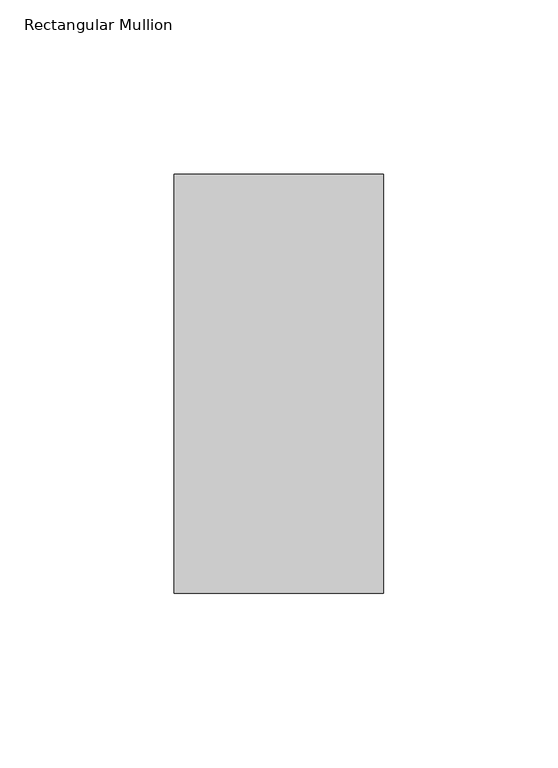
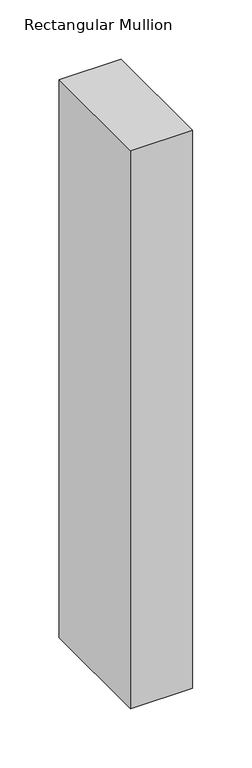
"""IFC4 building model written with IfcOpenShell, lengths in millimetres: member geometry, Rectangular Mullion : Terça."""

from ifc_helpers import new_model, si_unit, frame, origin, place, context, project, spatial, polyline, outline, extrude, source, transform, mapped, element, save


def rectangular_mullion_70739a68(model_context):
    return source(origin(), model_context, "Body", "SweptSolid", [
        extrude(outline(polyline([(0.0, -120.0), (-60.0, -120.0), (-60.0, 0.0), (0.0, 0.0), (0.0, -120.0)])), frame((0.0, 0.0, -572.0547567), z_axis=(0.0, 0.0, 1.0), x_axis=(1.0, 0.0, 0.0)), (0.0, 0.0, 1.0), 572.0547567),
    ])


if __name__ == "__main__":
    model = new_model("IFC4")
    model_context = context("Model", 3, world=origin())
    ifc_project = project(units=[si_unit("LENGTHUNIT", "METRE", prefix="MILLI")], contexts=[model_context])
    site = spatial("IfcSite", under=ifc_project)
    building = spatial("IfcBuilding", under=site)
    placement = place(None, origin())
    rectangular_mullion_shape = rectangular_mullion_70739a68(model_context)
    element("IfcMember", 1, ObjectType="Rectangular Mullion : Terça", at=placement, inside=building, context=model_context, shape_type="MappedRepresentation", body=[
        mapped(rectangular_mullion_shape, transform((0.0, 0.0, 0.0), x_axis=(1.0, 0.0, 0.0), y_axis=(0.0, 1.0, 0.0), z_axis=(0.0, 0.0, 1.0))),
    ])
    save(model, "model.ifc")
